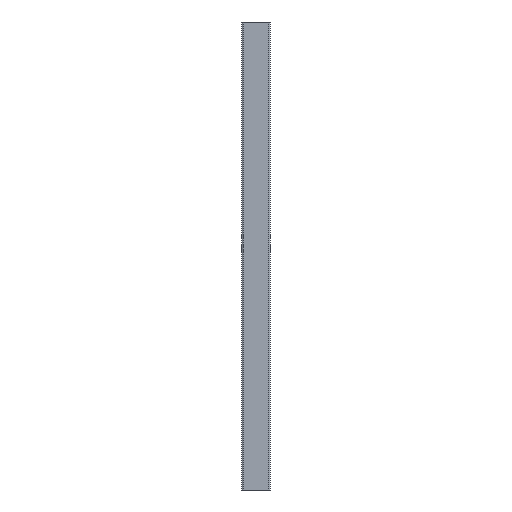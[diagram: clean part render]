
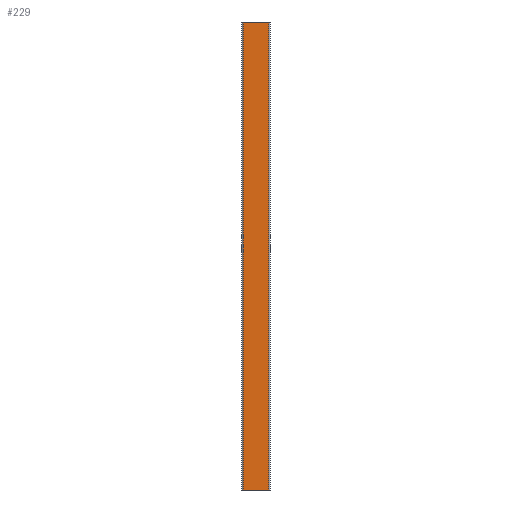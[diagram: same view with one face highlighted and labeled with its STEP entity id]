
A CAD part, left-side view. The second image highlights one B-rep face of the part: STEP entity #229.
In plain terms, the highlighted planar face has unit normal (-1, 0, 0).
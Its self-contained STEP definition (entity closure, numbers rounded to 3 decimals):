
#20 = AXIS2_PLACEMENT_3D ( 'NONE', #811, #275, #819 ) ;
#25 = EDGE_CURVE ( 'NONE', #298, #815, #565, .T. ) ;
#27 = DIRECTION ( 'NONE',  ( 0., 0., 1. ) ) ;
#79 = FACE_OUTER_BOUND ( 'NONE', #797, .T. ) ;
#91 = DIRECTION ( 'NONE',  ( 0., -1., 0. ) ) ;
#106 = CARTESIAN_POINT ( 'NONE',  ( -4.5, 5.75, 50. ) ) ;
#164 = CARTESIAN_POINT ( 'NONE',  ( -4.5, 0., 50. ) ) ;
#196 = VECTOR ( 'NONE', #837, 1000. ) ;
#218 = ORIENTED_EDGE ( 'NONE', *, *, #388, .T. ) ;
#229 = ADVANCED_FACE ( 'NONE', ( #79 ), #814, .F. ) ;
#275 = DIRECTION ( 'NONE',  ( 1., 0., 0. ) ) ;
#298 = VERTEX_POINT ( 'NONE', #693 ) ;
#357 = CARTESIAN_POINT ( 'NONE',  ( -4.5, 0.25, 50. ) ) ;
#377 = LINE ( 'NONE', #629, #876 ) ;
#388 = EDGE_CURVE ( 'NONE', #427, #786, #507, .T. ) ;
#427 = VERTEX_POINT ( 'NONE', #705 ) ;
#428 = CARTESIAN_POINT ( 'NONE',  ( -4.5, 5.75, -50. ) ) ;
#429 = CARTESIAN_POINT ( 'NONE',  ( -4.5, 0.25, 50. ) ) ;
#488 = EDGE_CURVE ( 'NONE', #815, #427, #377, .T. ) ;
#500 = ORIENTED_EDGE ( 'NONE', *, *, #488, .T. ) ;
#507 = LINE ( 'NONE', #429, #576 ) ;
#565 = LINE ( 'NONE', #106, #196 ) ;
#576 = VECTOR ( 'NONE', #27, 1000. ) ;
#629 = CARTESIAN_POINT ( 'NONE',  ( -4.5, 0., -50. ) ) ;
#640 = ORIENTED_EDGE ( 'NONE', *, *, #840, .F. ) ;
#643 = ORIENTED_EDGE ( 'NONE', *, *, #25, .T. ) ;
#693 = CARTESIAN_POINT ( 'NONE',  ( -4.5, 5.75, 50. ) ) ;
#699 = DIRECTION ( 'NONE',  ( 0., -1., 0. ) ) ;
#705 = CARTESIAN_POINT ( 'NONE',  ( -4.5, 0.25, -50. ) ) ;
#720 = VECTOR ( 'NONE', #699, 1000. ) ;
#786 = VERTEX_POINT ( 'NONE', #357 ) ;
#794 = LINE ( 'NONE', #164, #720 ) ;
#797 = EDGE_LOOP ( 'NONE', ( #500, #218, #640, #643 ) ) ;
#811 = CARTESIAN_POINT ( 'NONE',  ( -4.5, 0., 50. ) ) ;
#814 = PLANE ( 'NONE',  #20 ) ;
#815 = VERTEX_POINT ( 'NONE', #428 ) ;
#819 = DIRECTION ( 'NONE',  ( 0., 0., -1. ) ) ;
#837 = DIRECTION ( 'NONE',  ( 0., 0., -1. ) ) ;
#840 = EDGE_CURVE ( 'NONE', #298, #786, #794, .T. ) ;
#876 = VECTOR ( 'NONE', #91, 1000. ) ;
